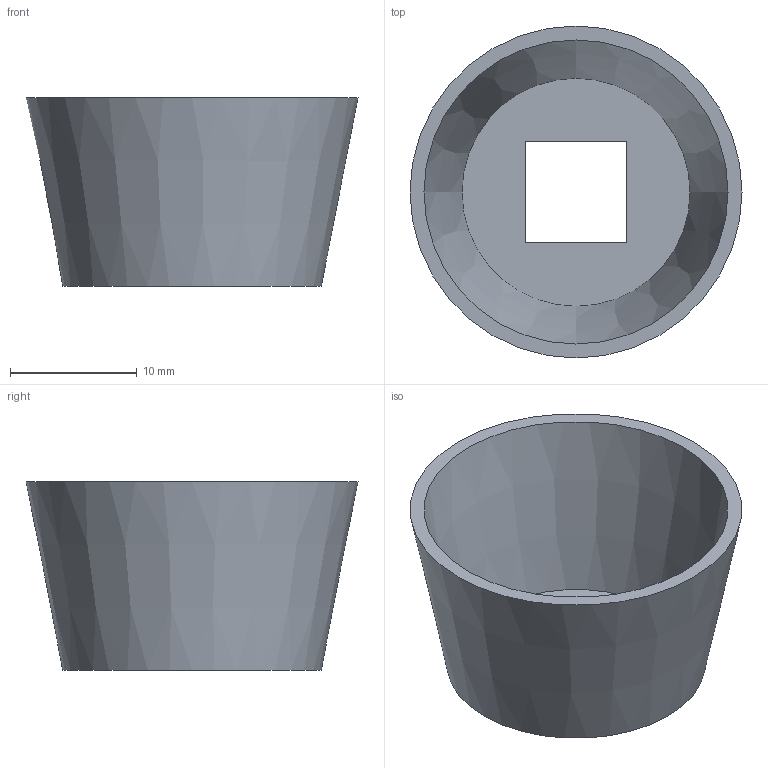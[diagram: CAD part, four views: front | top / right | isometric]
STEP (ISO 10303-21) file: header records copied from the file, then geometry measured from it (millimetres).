
FILE_DESCRIPTION(('FreeCAD Model'),'2;1');
FILE_NAME('Open CASCADE Shape Model','2026-09-05T20:39:50',('FreeCAD'),( 'FreeCAD'),'Open CASCADE STEP processor 7.8','FreeCAD','Unknown');
FILE_SCHEMA(('AUTOMOTIVE_DESIGN { 1 0 10303 214 1 1 1 1 }'));
Length unit declared in the file: millimetre
Products named in the file (1): Open CASCADE STEP translator 7.8 4
Bounding box: 26.2 x 26.2 x 14.9 mm (x, y, z)
Volume: 1417.8 mm3; surface area: 2627.8 mm2
Topology: 1 solids, 1 shells, 9 faces, 18 edges, 12 vertices
Faces by surface type: plane 7, cone 2
Entity records: 250 total; most frequent: DIRECTION 42, CARTESIAN_POINT 40, ORIENTED_EDGE 36, EDGE_CURVE 18, AXIS2_PLACEMENT_3D 14, LINE 14, VECTOR 14, FACE_BOUND 12
